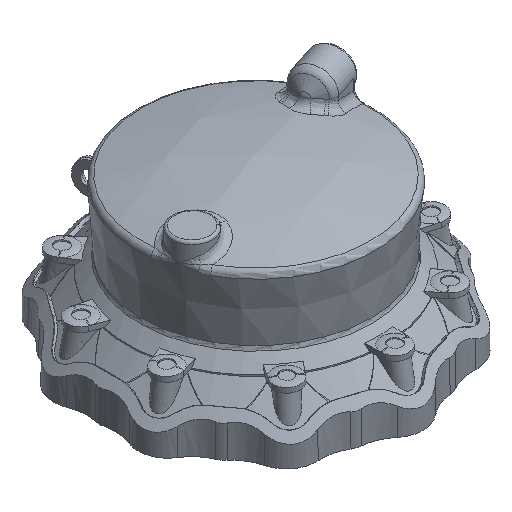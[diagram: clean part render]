
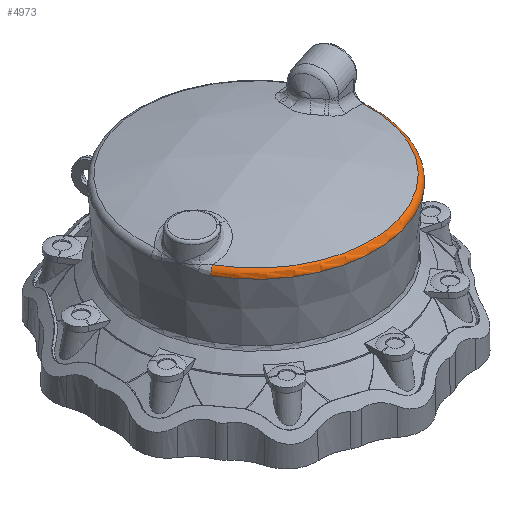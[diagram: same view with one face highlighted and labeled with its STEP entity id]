
A CAD part, isometric view. The second image highlights one B-rep face of the part: STEP entity #4973.
In plain terms, the highlighted toroidal (fillet/blend) face has major radius 227.313 mm and minor radius 13 mm.
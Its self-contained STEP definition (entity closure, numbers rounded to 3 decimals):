
#220 = VERTEX_POINT ( 'NONE', #18075 ) ;
#4445 = AXIS2_PLACEMENT_3D ( 'NONE', #13714, #13734, #13735 ) ;
#4973 = ADVANCED_FACE ( 'NONE', ( #9769 ), #9775, .T. ) ;
#8985 = VERTEX_POINT ( 'NONE', #23643 ) ;
#9204 = VERTEX_POINT ( 'NONE', #23862 ) ;
#9205 = VERTEX_POINT ( 'NONE', #23863 ) ;
#9769 = FACE_OUTER_BOUND ( 'NONE', #17807, .T. ) ;
#9775 = TOROIDAL_SURFACE ( 'NONE', #4445, 227.313, 13. ) ;
#12016 = ORIENTED_EDGE ( 'NONE', *, *, #22762, .F. ) ;
#12017 = ORIENTED_EDGE ( 'NONE', *, *, #22633, .F. ) ;
#13714 = CARTESIAN_POINT ( 'NONE',  ( 0., 0., 1.4 ) ) ;
#13734 = DIRECTION ( 'NONE',  ( 0., 0., -1. ) ) ;
#13735 = DIRECTION ( 'NONE',  ( -1., 0., 0. ) ) ;
#17496 = ORIENTED_EDGE ( 'NONE', *, *, #22509, .F. ) ;
#17641 = ORIENTED_EDGE ( 'NONE', *, *, #22634, .T. ) ;
#17807 = EDGE_LOOP ( 'NONE', ( #17641, #17496, #12016, #12017 ) ) ;
#18075 = CARTESIAN_POINT ( 'NONE',  ( 239.644, 17.486, 0.493 ) ) ;
#18435 = AXIS2_PLACEMENT_3D ( 'NONE', #27332, #27333, #27334 ) ;
#18475 = AXIS2_PLACEMENT_3D ( 'NONE', #28191, #28193, #28195 ) ;
#18476 = AXIS2_PLACEMENT_3D ( 'NONE', #28199, #28201, #28203 ) ;
#18522 = AXIS2_PLACEMENT_3D ( 'NONE', #29721, #29723, #29724 ) ;
#22509 = EDGE_CURVE ( 'NONE', #9205, #9204, #29651, .T. ) ;
#22633 = EDGE_CURVE ( 'NONE', #220, #8985, #29790, .T. ) ;
#22634 = EDGE_CURVE ( 'NONE', #220, #9204, #29786, .T. ) ;
#22762 = EDGE_CURVE ( 'NONE', #8985, #9205, #29901, .T. ) ;
#23643 = CARTESIAN_POINT ( 'NONE',  ( -209.143, -118.297, 0.493 ) ) ;
#23862 = CARTESIAN_POINT ( 'NONE',  ( 230.78, 16.839, 13.743 ) ) ;
#23863 = CARTESIAN_POINT ( 'NONE',  ( -201.407, -113.922, 13.743 ) ) ;
#27332 = CARTESIAN_POINT ( 'NONE',  ( 0., 0., 13.743 ) ) ;
#27333 = DIRECTION ( 'NONE',  ( 0., 0., 1. ) ) ;
#27334 = DIRECTION ( 'NONE',  ( -1., 0., 0. ) ) ;
#28191 = CARTESIAN_POINT ( 'NONE',  ( 0., 0., 0.493 ) ) ;
#28193 = DIRECTION ( 'NONE',  ( 0., 0., -1. ) ) ;
#28195 = DIRECTION ( 'NONE',  ( -1., 0., 0. ) ) ;
#28199 = CARTESIAN_POINT ( 'NONE',  ( 226.71, 16.542, 1.4 ) ) ;
#28201 = DIRECTION ( 'NONE',  ( 0.073, -0.997, 0. ) ) ;
#28203 = DIRECTION ( 'NONE',  ( 0.997, 0.073, 0. ) ) ;
#29651 = CIRCLE ( 'NONE', #18435, 231.393 ) ;
#29721 = CARTESIAN_POINT ( 'NONE',  ( -197.855, -111.913, 1.4 ) ) ;
#29723 = DIRECTION ( 'NONE',  ( -0.492, 0.87, 0. ) ) ;
#29724 = DIRECTION ( 'NONE',  ( -0.87, -0.492, 0. ) ) ;
#29786 = CIRCLE ( 'NONE', #18476, 13. ) ;
#29790 = CIRCLE ( 'NONE', #18475, 240.281 ) ;
#29901 = CIRCLE ( 'NONE', #18522, 13. ) ;
